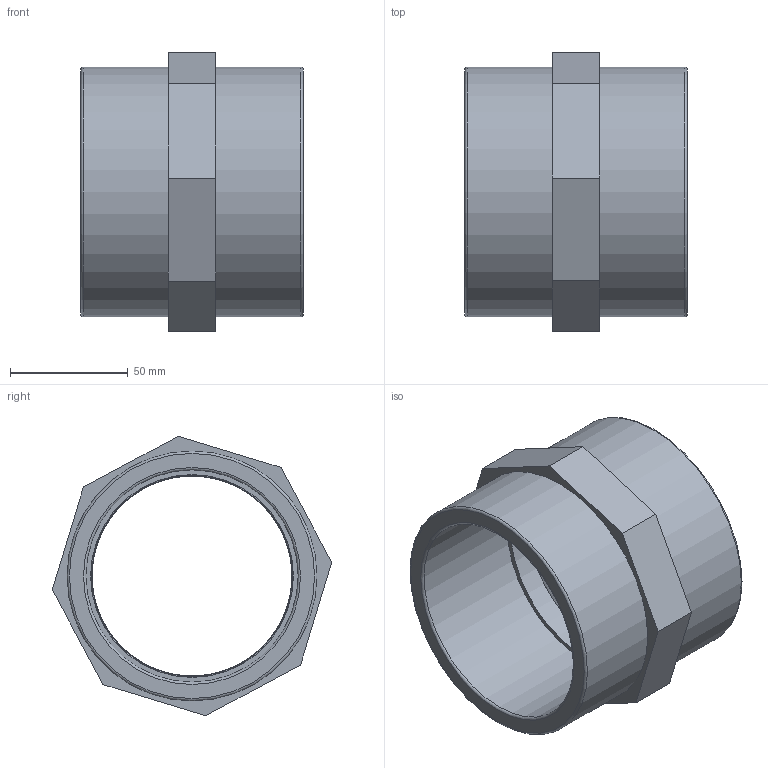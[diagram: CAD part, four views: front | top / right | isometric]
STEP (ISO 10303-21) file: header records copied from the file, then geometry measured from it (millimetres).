
FILE_DESCRIPTION(/* description */ (''),/* implementation_level */ '2;1');
FILE_NAME(/* name */ 'C:\Users\Gabriele\Desktop\disegni 3D\SO12\SO12090I.ipt.stp',/* time_stamp */ '2017-02-10T09:52:46+01:00',/* author */ ('Eugenio'),/* organization */ (''),/* preprocessor_version */ 'ST-DEVELOPER v16.5',/* originating_system */ 'Autodesk Inventor 2017',/* authorisation */ '');
FILE_SCHEMA (('AUTOMOTIVE_DESIGN { 1 0 10303 214 3 1 1 }'));
Length unit declared in the file: millimetre
Products named in the file (1): SO12090I
Bounding box: 94.3 x 118.49 x 118.49 mm (x, y, z)
Volume: 278075.8 mm3; surface area: 90535.6 mm2
Topology: 2 solids, 2 shells, 33 faces, 73 edges, 48 vertices
Faces by surface type: plane 16, cylinder 7, bspline 6, torus 4
Full cylindrical faces by diameter (mm): 86 x1, 87.88 x2, 90 x1, 106 x2
Entity records: 7249 total; most frequent: CARTESIAN_POINT 6574, ORIENTED_EDGE 122, DIRECTION 116, EDGE_CURVE 61, EDGE_LOOP 51, VERTEX_POINT 46, AXIS2_PLACEMENT_3D 46, FACE_OUTER_BOUND 33
